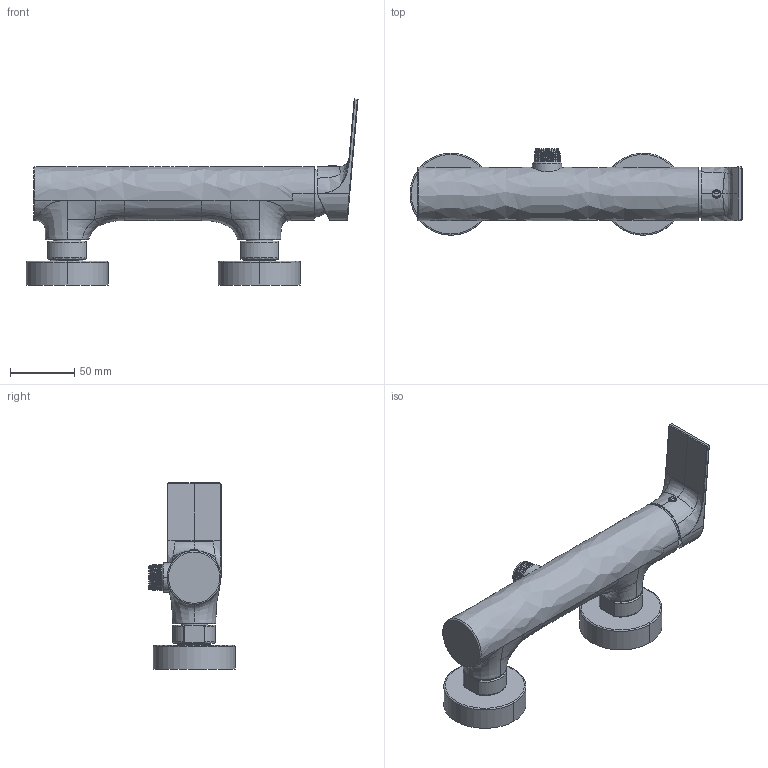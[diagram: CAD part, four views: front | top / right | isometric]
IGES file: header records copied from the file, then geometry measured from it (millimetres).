
Start section:  PTC IGES file: 78007.igs
Global section: file name: 78007.igs; native system: Creo Parametric by PTC Inc.; preprocessor: 2022014; author: carloff; organization: Unknown; date: 20240912.153928; units: millimetre
Bounding box: 258.97 x 67.3 x 145.09 mm (x, y, z)
Surface area: 76414.7 mm2 (no closed solid volume)
Topology: 0 solids, 0 shells, 347 faces, 1706 edges, 1702 vertices
Faces by surface type: bspline 183, revolution 162, extrusion 2
